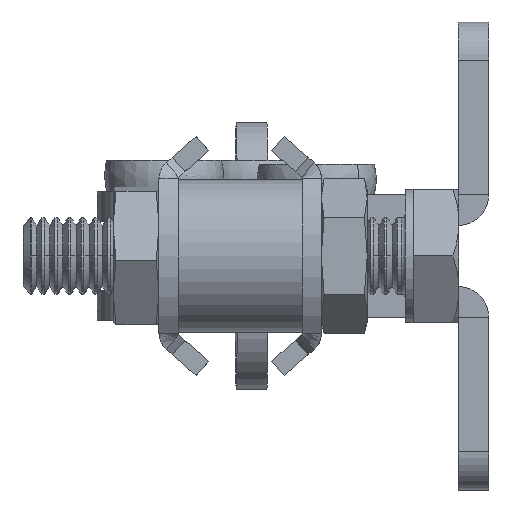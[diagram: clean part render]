
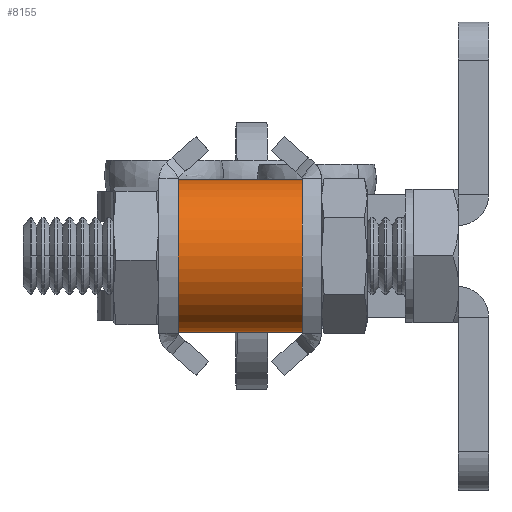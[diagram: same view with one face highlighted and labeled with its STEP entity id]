
A CAD part, left-side view. The second image highlights one B-rep face of the part: STEP entity #8155.
In plain terms, the highlighted cylindrical face has radius 4 mm (diameter 8 mm), a partial arc.
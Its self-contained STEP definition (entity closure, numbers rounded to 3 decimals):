
#41 = AXIS2_PLACEMENT_3D ( 'NONE', #4995, #12512, #11425 ) ;
#180 = CIRCLE ( 'NONE', #9114, 4. ) ;
#891 = DIRECTION ( 'NONE',  ( 0., 0., -1. ) ) ;
#1061 = DIRECTION ( 'NONE',  ( 0., -1., 0. ) ) ;
#1534 = CYLINDRICAL_SURFACE ( 'NONE', #41, 4. ) ;
#1721 = DIRECTION ( 'NONE',  ( 0., -1., 0. ) ) ;
#1860 = VECTOR ( 'NONE', #1721, 1000. ) ;
#1882 = FACE_OUTER_BOUND ( 'NONE', #12587, .T. ) ;
#2716 = EDGE_CURVE ( 'NONE', #9347, #9197, #5810, .T. ) ;
#2746 = CIRCLE ( 'NONE', #7113, 4. ) ;
#3439 = ORIENTED_EDGE ( 'NONE', *, *, #6302, .F. ) ;
#3580 = ORIENTED_EDGE ( 'NONE', *, *, #9902, .T. ) ;
#4765 = CARTESIAN_POINT ( 'NONE',  ( -19.34, 4.25, 4. ) ) ;
#4995 = CARTESIAN_POINT ( 'NONE',  ( -19.34, 15., 0. ) ) ;
#5488 = CARTESIAN_POINT ( 'NONE',  ( -19.34, 4.25, -4. ) ) ;
#5758 = ORIENTED_EDGE ( 'NONE', *, *, #7868, .F. ) ;
#5810 = LINE ( 'NONE', #11156, #13402 ) ;
#6302 = EDGE_CURVE ( 'NONE', #9197, #11570, #2746, .T. ) ;
#6461 = VERTEX_POINT ( 'NONE', #9970 ) ;
#7113 = AXIS2_PLACEMENT_3D ( 'NONE', #7555, #1061, #8629 ) ;
#7382 = DIRECTION ( 'NONE',  ( 0., 1., 0. ) ) ;
#7555 = CARTESIAN_POINT ( 'NONE',  ( -19.34, 4.25, 0. ) ) ;
#7868 = EDGE_CURVE ( 'NONE', #6461, #9347, #180, .T. ) ;
#8155 = ADVANCED_FACE ( 'NONE', ( #1882 ), #1534, .T. ) ;
#8629 = DIRECTION ( 'NONE',  ( 1., 0., 0. ) ) ;
#9093 = DIRECTION ( 'NONE',  ( 0., -1., 0. ) ) ;
#9114 = AXIS2_PLACEMENT_3D ( 'NONE', #13824, #7382, #891 ) ;
#9197 = VERTEX_POINT ( 'NONE', #4765 ) ;
#9275 = CARTESIAN_POINT ( 'NONE',  ( -19.34, 15., -4. ) ) ;
#9347 = VERTEX_POINT ( 'NONE', #13636 ) ;
#9902 = EDGE_CURVE ( 'NONE', #6461, #11570, #10129, .T. ) ;
#9970 = CARTESIAN_POINT ( 'NONE',  ( -19.34, 10.75, -4. ) ) ;
#10129 = LINE ( 'NONE', #9275, #1860 ) ;
#11156 = CARTESIAN_POINT ( 'NONE',  ( -19.34, 15., 4. ) ) ;
#11425 = DIRECTION ( 'NONE',  ( 0., 0., -1. ) ) ;
#11570 = VERTEX_POINT ( 'NONE', #5488 ) ;
#11706 = ORIENTED_EDGE ( 'NONE', *, *, #2716, .F. ) ;
#12512 = DIRECTION ( 'NONE',  ( 0., -1., 0. ) ) ;
#12587 = EDGE_LOOP ( 'NONE', ( #5758, #3580, #3439, #11706 ) ) ;
#13402 = VECTOR ( 'NONE', #9093, 1000. ) ;
#13636 = CARTESIAN_POINT ( 'NONE',  ( -19.34, 10.75, 4. ) ) ;
#13824 = CARTESIAN_POINT ( 'NONE',  ( -19.34, 10.75, 0. ) ) ;
